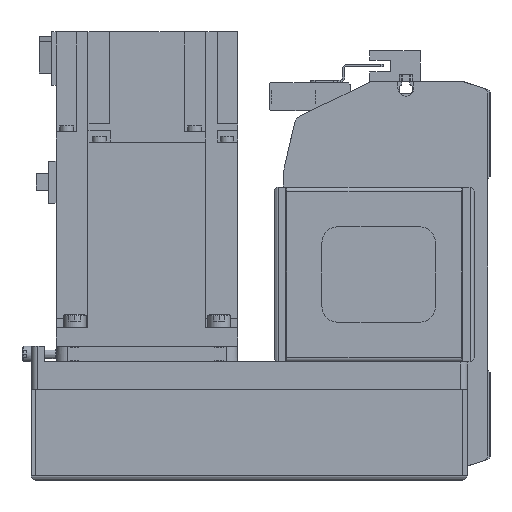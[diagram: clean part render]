
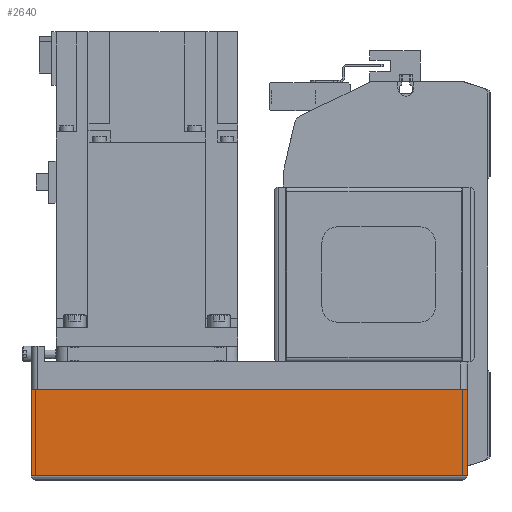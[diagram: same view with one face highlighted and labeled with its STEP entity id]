
A CAD part, left-side view. The second image highlights one B-rep face of the part: STEP entity #2640.
In plain terms, the highlighted planar face has unit normal (-1, 0, 0) as drawn and (0, -1, 0) by its records, which use the part's own axes.
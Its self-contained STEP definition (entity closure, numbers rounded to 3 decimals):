
#2640 = ADVANCED_FACE( '', ( #5706 ), #5707, .T. );
#5706 = FACE_OUTER_BOUND( '', #9138, .T. );
#5707 = PLANE( '', #9139 );
#9138 = EDGE_LOOP( '', ( #16520, #16521, #16522, #16523 ) );
#9139 = AXIS2_PLACEMENT_3D( '', #16524, #16525, #16526 );
#16520 = ORIENTED_EDGE( '', *, *, #21705, .F. );
#16521 = ORIENTED_EDGE( '', *, *, #20196, .F. );
#16522 = ORIENTED_EDGE( '', *, *, #21354, .T. );
#16523 = ORIENTED_EDGE( '', *, *, #19573, .T. );
#16524 = CARTESIAN_POINT( '', ( -192., -40., -12.1 ) );
#16525 = DIRECTION( '', ( 0., -1., 0. ) );
#16526 = DIRECTION( '', ( 0., 0., -1. ) );
#19573 = EDGE_CURVE( '', #23270, #23274, #23276, .T. );
#20196 = EDGE_CURVE( '', #24360, #24361, #24362, .T. );
#21354 = EDGE_CURVE( '', #24360, #23270, #26235, .T. );
#21705 = EDGE_CURVE( '', #24361, #23274, #26735, .T. );
#23270 = VERTEX_POINT( '', #28714 );
#23274 = VERTEX_POINT( '', #28719 );
#23276 = LINE( '', #28721, #28722 );
#24360 = VERTEX_POINT( '', #30220 );
#24361 = VERTEX_POINT( '', #30221 );
#24362 = LINE( '', #30222, #30223 );
#26235 = LINE( '', #32947, #32948 );
#26735 = LINE( '', #33774, #33775 );
#28714 = CARTESIAN_POINT( '', ( -192., -40., -50. ) );
#28719 = CARTESIAN_POINT( '', ( 0., -40., -50. ) );
#28721 = CARTESIAN_POINT( '', ( -192., -40., -50. ) );
#28722 = VECTOR( '', #36567, 1000. );
#30220 = CARTESIAN_POINT( '', ( -192., -40., -12.1 ) );
#30221 = CARTESIAN_POINT( '', ( 0., -40., -12.1 ) );
#30222 = CARTESIAN_POINT( '', ( -192., -40., -12.1 ) );
#30223 = VECTOR( '', #37371, 1000. );
#32947 = CARTESIAN_POINT( '', ( -192., -40., -12.1 ) );
#32948 = VECTOR( '', #38852, 1000. );
#33774 = CARTESIAN_POINT( '', ( 0., -40., -12.1 ) );
#33775 = VECTOR( '', #39223, 1000. );
#36567 = DIRECTION( '', ( 1., 0., 0. ) );
#37371 = DIRECTION( '', ( 1., 0., 0. ) );
#38852 = DIRECTION( '', ( 0., 0., -1. ) );
#39223 = DIRECTION( '', ( 0., 0., -1. ) );
